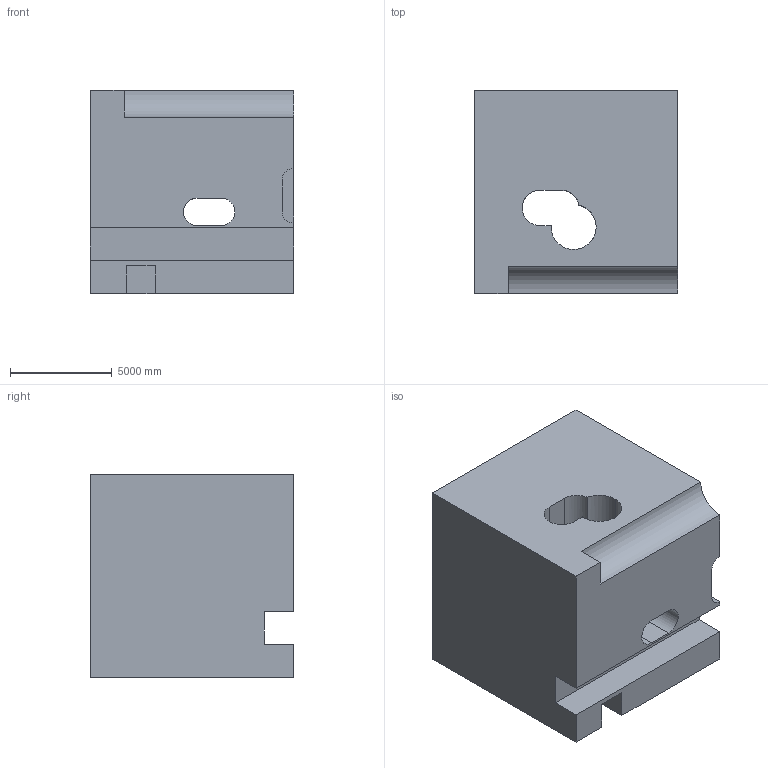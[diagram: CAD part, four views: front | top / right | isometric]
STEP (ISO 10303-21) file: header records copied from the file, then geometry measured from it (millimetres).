
FILE_DESCRIPTION (( 'STEP AP203' ), '1' );
FILE_NAME ('789.STEP', '2022-08-04T15:52:48', ( 'user' ), ( '' ), 'SwSTEP 2.0', 'SolidWorks 2021', '' );
FILE_SCHEMA (( 'CONFIG_CONTROL_DESIGN' ));
Length unit declared in the file: centimetre
Products named in the file (1): 789
Bounding box: 10000 x 10000 x 10000 mm (x, y, z)
Volume: 847991299345 mm3; surface area: 777922410 mm2
Topology: 1 solids, 1 shells, 42 faces, 126 edges, 84 vertices
Faces by surface type: plane 29, cylinder 13
Entity records: 1777 total; most frequent: CARTESIAN_POINT 531, ORIENTED_EDGE 252, DIRECTION 236, EDGE_CURVE 126, LINE 94, VECTOR 94, VERTEX_POINT 84, AXIS2_PLACEMENT_3D 71
